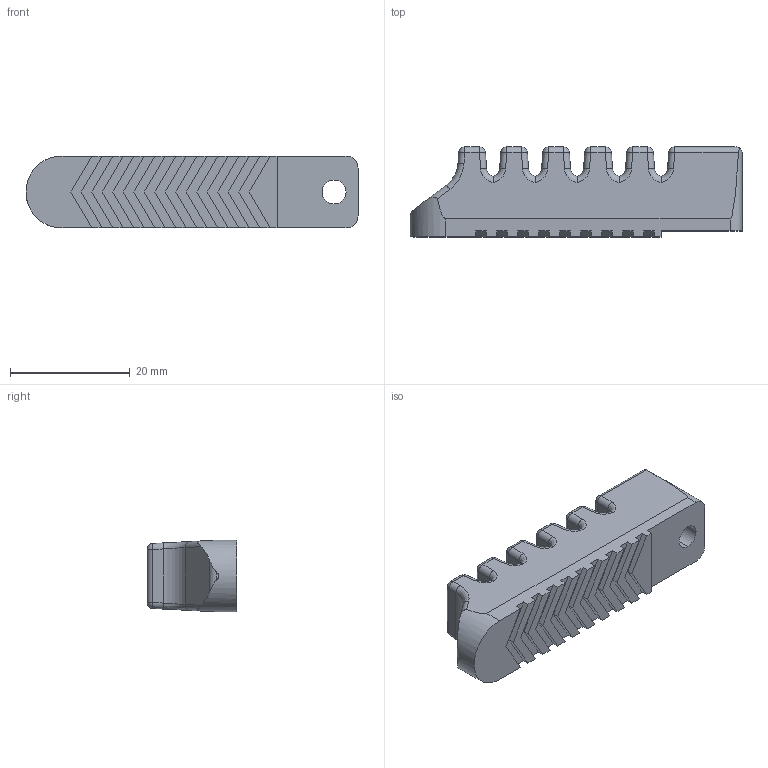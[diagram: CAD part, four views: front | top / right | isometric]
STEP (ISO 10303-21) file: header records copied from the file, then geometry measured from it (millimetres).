
FILE_DESCRIPTION (( 'STEP AP214' ), '1' );
FILE_NAME ('C6.STEP', '2019-12-04T07:44:03', ( '微软用户' ), ( '微软中国' ), 'SwSTEP 2.0', 'SolidWorks 2016', '' );
FILE_SCHEMA (( 'AUTOMOTIVE_DESIGN' ));
Length unit declared in the file: millimetre
Products named in the file (1): C6
Bounding box: 55.35 x 15 x 12 mm (x, y, z)
Volume: 7576 mm3; surface area: 3587.8 mm2
Topology: 1 solids, 1 shells, 190 faces, 464 edges, 276 vertices
Faces by surface type: plane 81, cylinder 65, sphere 22, bspline 22
Entity records: 9049 total; most frequent: CARTESIAN_POINT 2690, ORIENTED_EDGE 928, DIRECTION 828, EDGE_CURVE 464, VECTOR 296, LINE 296, VERTEX_POINT 276, AXIS2_PLACEMENT_3D 266
